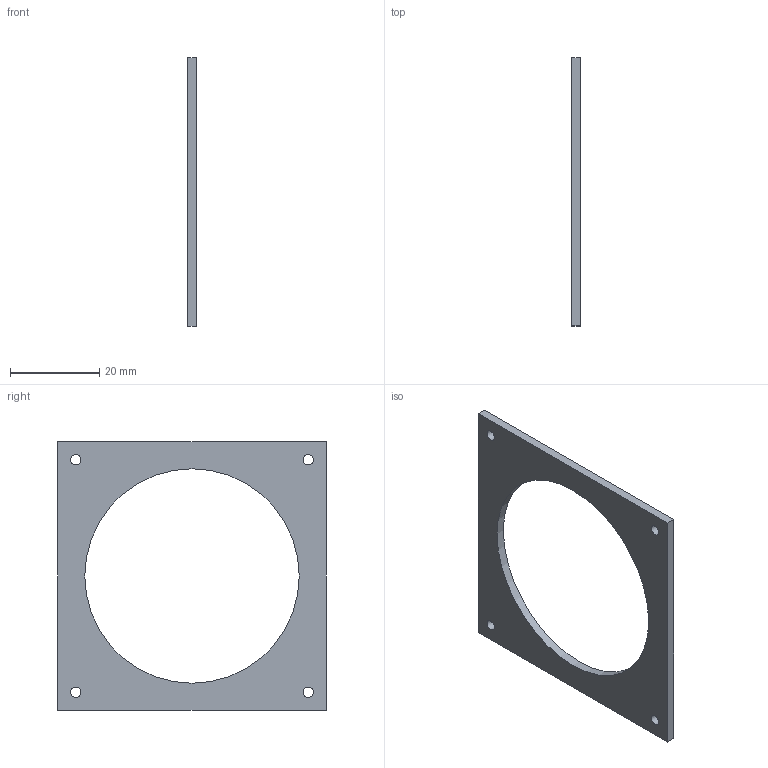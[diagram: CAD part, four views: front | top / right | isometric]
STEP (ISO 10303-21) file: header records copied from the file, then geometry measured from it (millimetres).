
FILE_DESCRIPTION(('Open CASCADE Model'),'2;1');
FILE_NAME('Open CASCADE Shape Model','2026-10-08T14:17:54',('Author'),( 'Open CASCADE'),'Open CASCADE STEP processor 7.9','Open CASCADE 7.9' ,'Unknown');
FILE_SCHEMA(('AUTOMOTIVE_DESIGN { 1 0 10303 214 1 1 1 1 }'));
Length unit declared in the file: millimetre
Products named in the file (1): Open CASCADE STEP translator 7.9 12
Bounding box: 2 x 60 x 60 mm (x, y, z)
Volume: 3547.6 mm3; surface area: 4387 mm2
Topology: 1 solids, 1 shells, 11 faces, 27 edges, 18 vertices
Faces by surface type: plane 6, cylinder 5
Full cylindrical faces by diameter (mm): 2.3 x4, 48 x1
Entity records: 742 total; most frequent: CARTESIAN_POINT 171, DIRECTION 105, LINE 61, VECTOR 61, ORIENTED_EDGE 54, PCURVE 54, DEFINITIONAL_REPRESENTATION 54, EDGE_CURVE 27
